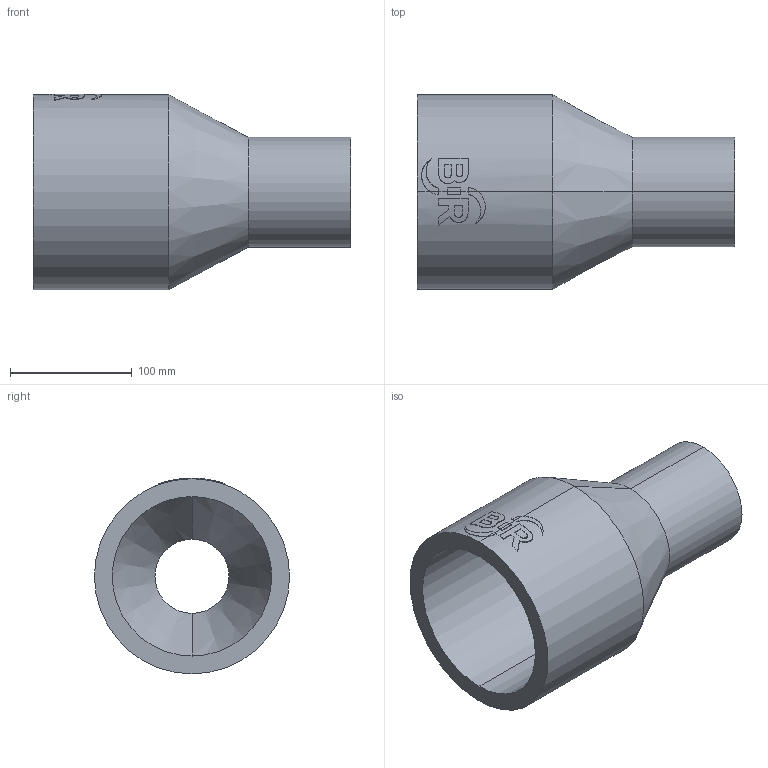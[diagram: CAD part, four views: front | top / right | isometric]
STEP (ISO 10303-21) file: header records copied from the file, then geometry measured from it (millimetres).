
FILE_DESCRIPTION (( 'STEP AP214' ), '1' );
FILE_NAME ('2323171315.STEP', '2018-07-20T11:39:25', ( '' ), ( '' ), 'SwSTEP 2.0', 'SolidWorks 2017', '' );
FILE_SCHEMA (( 'AUTOMOTIVE_DESIGN' ));
Length unit declared in the file: millimetre
Products named in the file (1): 2323171315
Bounding box: 260 x 160 x 160.46 mm (x, y, z)
Volume: 1399160.6 mm3; surface area: 201946.7 mm2
Topology: 1 solids, 1 shells, 63 faces, 160 edges, 104 vertices
Faces by surface type: cylinder 31, plane 28, cone 4
Entity records: 3249 total; most frequent: CARTESIAN_POINT 1040, ORIENTED_EDGE 320, DIRECTION 296, EDGE_CURVE 160, AXIS2_PLACEMENT_3D 112, VERTEX_POINT 104, VECTOR 72, LINE 72
